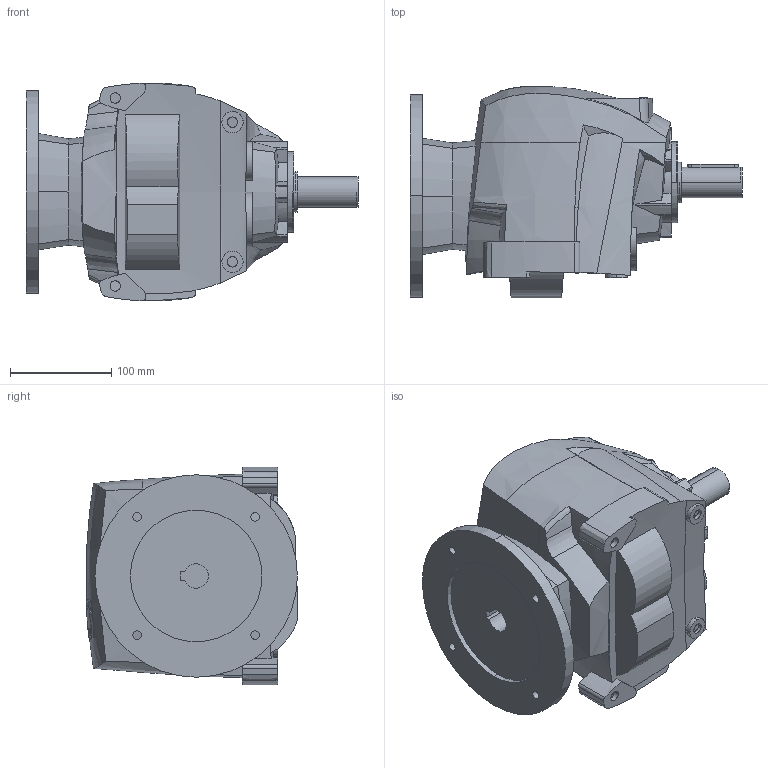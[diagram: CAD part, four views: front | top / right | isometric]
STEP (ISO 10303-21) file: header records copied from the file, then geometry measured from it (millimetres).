
FILE_DESCRIPTION((''),'2;1');
FILE_NAME('R30_UNV_PAM90','2013-11-19T',('Luca'),(''),'PRO/ENGINEER BY PARAMETRIC TECHNOLOGY CORPORATION, 2008230','PRO/ENGINEER BY PARAMETRIC TECHNOLOGY CORPORATION, 2008230','');
FILE_SCHEMA(('CONFIG_CONTROL_DESIGN'));
Length unit declared in the file: millimetre
Products named in the file (1): R30_UNV_PAM90
Bounding box: 328 x 209.27 x 215.22 mm (x, y, z)
Volume: 6525726.4 mm3; surface area: 280582.4 mm2
Topology: 6 solids, 6 shells, 391 faces, 1067 edges, 718 vertices
Faces by surface type: plane 144, cylinder 113, bspline 87, cone 26, extrusion 17, torus 4
Entity records: 16387 total; most frequent: CARTESIAN_POINT 7285, ORIENTED_EDGE 2122, DIRECTION 1470, EDGE_CURVE 1061, VERTEX_POINT 716, VECTOR 490, AXIS2_PLACEMENT_3D 490, LINE 473
